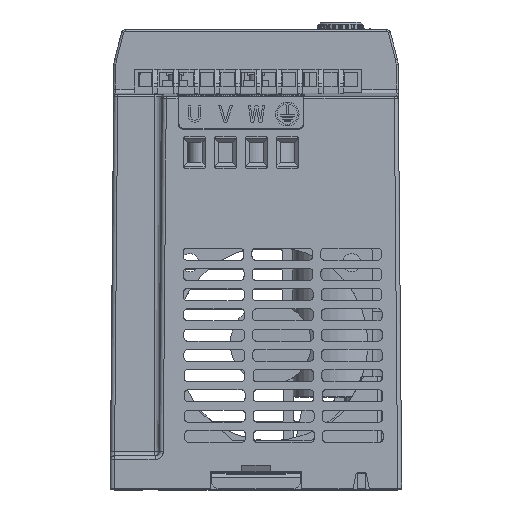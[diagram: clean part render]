
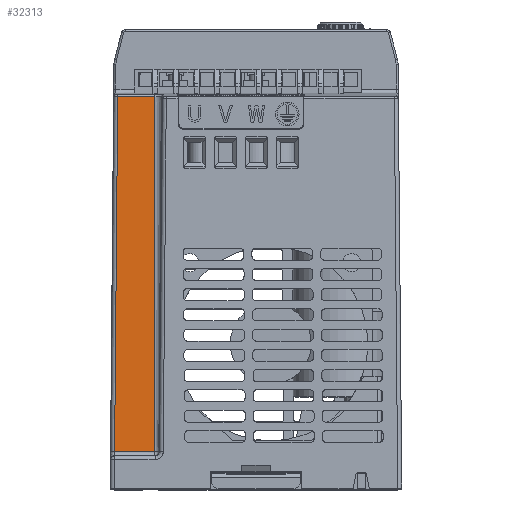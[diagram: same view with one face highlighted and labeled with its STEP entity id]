
A CAD part, top view. The second image highlights one B-rep face of the part: STEP entity #32313.
In plain terms, the highlighted planar face has unit normal (0, 0.009, 1).
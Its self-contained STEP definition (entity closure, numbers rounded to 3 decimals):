
#984=DIRECTION('',(-1.,0.,0.));
#985=VECTOR('',#984,9.92);
#986=CARTESIAN_POINT('',(-25.,12.991,60.42));
#987=LINE('',#986,#985);
#988=DIRECTION('',(0.009,1.,-0.009));
#989=VECTOR('',#988,87.718);
#990=CARTESIAN_POINT('',(-34.92,12.991,60.42));
#991=LINE('',#990,#989);
#992=DIRECTION('',(1.,0.,0.));
#993=VECTOR('',#992,9.154);
#994=CARTESIAN_POINT('',(-34.154,100.703,59.654));
#995=LINE('',#994,#993);
#996=DIRECTION('',(0.,-1.,0.009));
#997=VECTOR('',#996,87.715);
#998=CARTESIAN_POINT('',(-25.,100.703,59.654));
#999=LINE('',#998,#997);
#1000=CARTESIAN_POINT('',(-34.154,100.703,59.654));
#24826=CARTESIAN_POINT('',(-34.92,12.991,
60.42));
#24827=VERTEX_POINT('',#24826);
#24828=VERTEX_POINT('',#1000);
#24830=CARTESIAN_POINT('',(-25.,12.991,
60.42));
#24831=VERTEX_POINT('',#24830);
#24834=CARTESIAN_POINT('',(-25.,100.703,
59.654));
#24835=VERTEX_POINT('',#24834);
#32300=CARTESIAN_POINT('',(-20.136,3.8,60.5));
#32301=DIRECTION('',(0.,-0.009,-1.));
#32302=DIRECTION('',(1.,0.,0.));
#32303=AXIS2_PLACEMENT_3D('',#32300,#32301,#32302);
#32304=PLANE('',#32303);
#32305=ORIENTED_EDGE('',*,*,#32290,.T.);
#32306=ORIENTED_EDGE('',*,*,#32230,.T.);
#32308=ORIENTED_EDGE('',*,*,#32307,.T.);
#32310=ORIENTED_EDGE('',*,*,#32309,.T.);
#32311=EDGE_LOOP('',(#32305,#32306,#32308,#32310));
#32312=FACE_OUTER_BOUND('',#32311,.F.);
#32313=ADVANCED_FACE('',(#32312),#32304,.F.);
#32230=EDGE_CURVE('',#24827,#24828,#991,.T.);
#32290=EDGE_CURVE('',#24831,#24827,#987,.T.);
#32307=EDGE_CURVE('',#24828,#24835,#995,.T.);
#32309=EDGE_CURVE('',#24835,#24831,#999,.T.);
